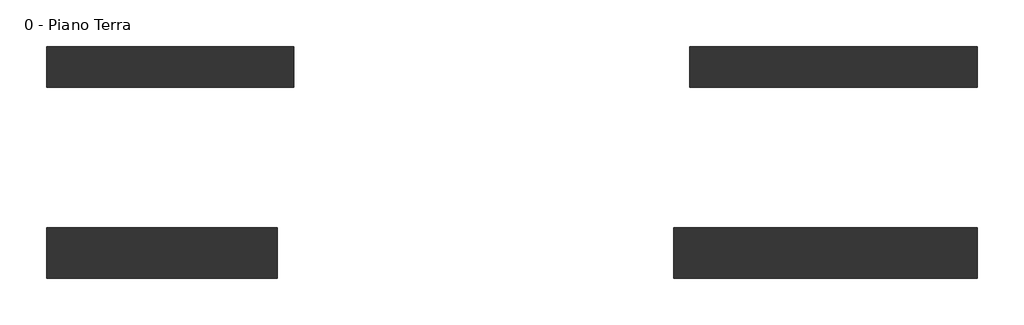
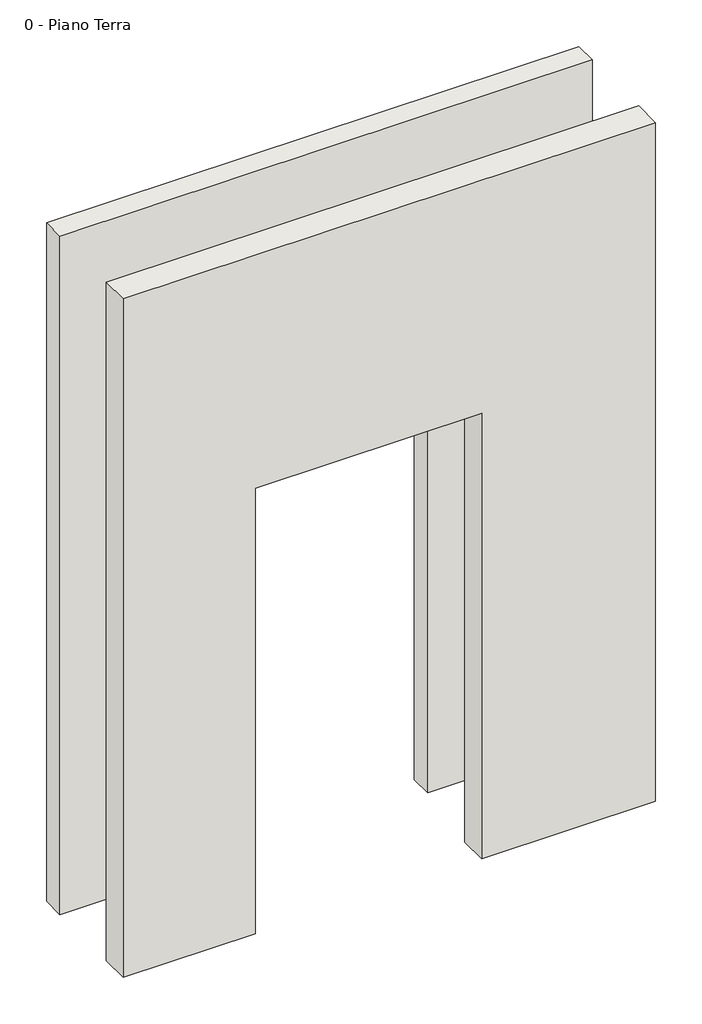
# One storey, incomplete: 2 walls.
"""IFC4 building model written with IfcOpenShell, lengths in millimetres."""

from ifc_helpers import new_model, si_unit, frame, origin, place, context, project, spatial, polyline, outline, extrude, element, save

model = new_model("IFC4")

# Units and contexts
model_context = context("Model", 3, world=origin())
ifc_project = project(units=[si_unit("LENGTHUNIT", "METRE", prefix="MILLI")], contexts=[model_context])

# Site, building, storey
site = spatial("IfcSite", under=ifc_project)
building = spatial("IfcBuilding", under=site)
storey = spatial("IfcBuildingStorey", under=building, Name="0 - Piano Terra", Elevation=0.0)

# Walls
placement = place(None, origin())
element("IfcWall", 1, ObjectType="Generico - 30 cm", at=placement, inside=storey, context=model_context, shape_type="SweptSolid", body=[
    extrude(outline(polyline([(0.0, -5240.1963429), (3100.0, -5240.1963429), (3100.0, -7540.1963429), (0.0, -7540.1963429), (0.0, -6929.6963429), (2035.0, -6929.6963429), (2035.0, -5950.6963429), (0.0, -5950.6963429), (0.0, -5240.1963429)])), frame((0.0, 497.0983626, 0.0), z_axis=(0.0, 1.0, 0.0), x_axis=(0.0, 0.0, 1.0)), (0.0, 0.0, 1.0), 100.0),
])
element("IfcWall", 2, ObjectType="Generico - 30 cm 4", at=placement, inside=storey, context=model_context, shape_type="SweptSolid", body=[
    extrude(outline(polyline([(0.0, -5240.1963429), (3100.0, -5240.1963429), (3100.0, -7540.1963429), (0.0, -7540.1963429), (0.0, -6969.6963429), (2035.0, -6969.6963429), (2035.0, -5990.6963429), (0.0, -5990.6963429), (0.0, -5240.1963429)])), frame((0.0, 24.5983626, 0.0), z_axis=(0.0, 1.0, 0.0), x_axis=(0.0, 0.0, 1.0)), (0.0, 0.0, 1.0), 125.0),
])

save(model, "model.ifc")
